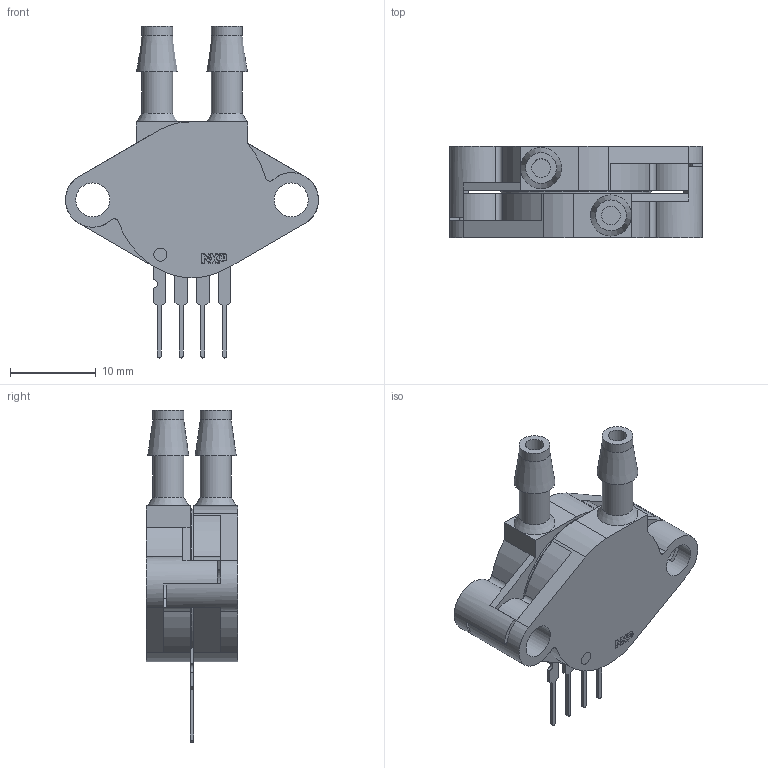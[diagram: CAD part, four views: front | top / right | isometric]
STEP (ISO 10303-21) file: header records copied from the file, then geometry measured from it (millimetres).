
FILE_DESCRIPTION(/* description */ (''),/* implementation_level */ '2;1');
FILE_NAME(/* name */ 'C:\Users\k\Desktop\Freescale Semiconductor MPX2010DP\2.stp',/* time_stamp */ '2021-05-25T17:38:10+02:00',/* author */ ('k'),/* organization */ (''),/* preprocessor_version */ 'ST-DEVELOPER v15.6',/* originating_system */ 'Autodesk Inventor 2015',/* authorisation */ '');
FILE_SCHEMA (('AUTOMOTIVE_DESIGN { 1 0 10303 214 3 1 1 }'));
Length unit declared in the file: inch
Products named in the file (5): 1; 2; NXP Logo
Bounding box: 29.46 x 10.67 x 38.67 mm (x, y, z)
Volume: 3472.7 mm3; surface area: 3151 mm2
Topology: 9 solids, 9 shells, 264 faces, 702 edges, 460 vertices
Faces by surface type: plane 172, cylinder 52, bspline 36, cone 4
Full cylindrical faces by diameter (mm): 1.531 x1, 2.159 x2, 3.602 x4, 3.962 x4
Entity records: 8367 total; most frequent: CARTESIAN_POINT 1876, ORIENTED_EDGE 1362, DIRECTION 1207, EDGE_CURVE 681, LINE 485, VECTOR 485, VERTEX_POINT 454, AXIS2_PLACEMENT_3D 361
